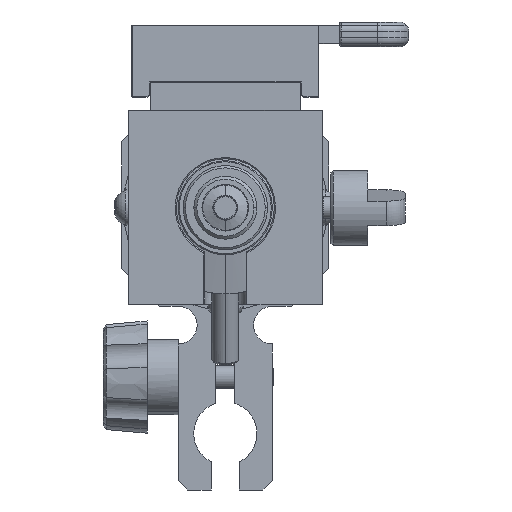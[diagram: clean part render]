
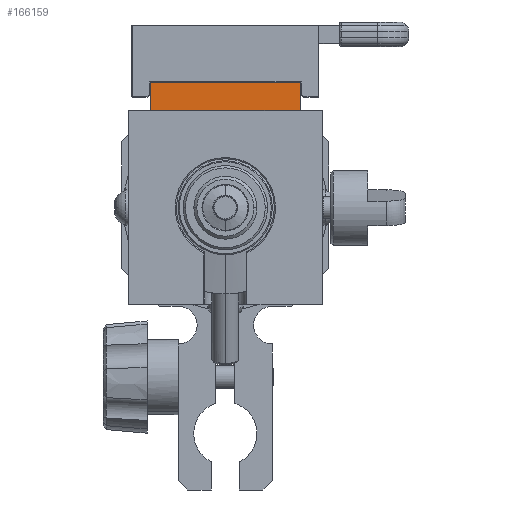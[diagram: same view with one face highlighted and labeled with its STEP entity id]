
A CAD part, front view. The second image highlights one B-rep face of the part: STEP entity #166159.
In plain terms, the highlighted planar face has unit normal (0, -1, 0).
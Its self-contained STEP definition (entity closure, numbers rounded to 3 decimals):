
#164773 = PLANE('',#164774);
#164774 = AXIS2_PLACEMENT_3D('',#164775,#164776,#164777);
#164775 = CARTESIAN_POINT('',(12.631,-54.095,16.376)
  );
#164776 = DIRECTION('',(0.,-0.707,
    -0.707));
#164777 = DIRECTION('',(0.,-0.707,
    0.707));
#165278 = VERTEX_POINT('',#165279);
#165279 = CARTESIAN_POINT('',(12.52,-54.178,21.057));
#165286 = PLANE('',#165287);
#165287 = AXIS2_PLACEMENT_3D('',#165288,#165289,#165290);
#165288 = CARTESIAN_POINT('',(12.705,-54.188,20.872)
  );
#165289 = DIRECTION('',(0.707,0.,
    0.707));
#165290 = DIRECTION('',(0.,1.,0.));
#165298 = PLANE('',#165299);
#165299 = AXIS2_PLACEMENT_3D('',#165300,#165301,#165302);
#165300 = CARTESIAN_POINT('',(12.53,-54.185,21.05)
  );
#165301 = DIRECTION('',(0.,-0.707,
    0.707));
#165302 = DIRECTION('',(0.,0.707,
    0.707));
#165310 = EDGE_CURVE('',#165278,#165311,#165313,.T.);
#165311 = VERTEX_POINT('',#165312);
#165312 = CARTESIAN_POINT('',(12.621,-54.178,20.955));
#165313 = SURFACE_CURVE('',#165314,(#165318,#165325),.PCURVE_S1.);
#165314 = LINE('',#165315,#165316);
#165315 = CARTESIAN_POINT('',(12.57,-54.178,21.006));
#165316 = VECTOR('',#165317,1.);
#165317 = DIRECTION('',(0.707,0.,
    -0.707));
#165318 = PCURVE('',#165286,#165319);
#165319 = DEFINITIONAL_REPRESENTATION('',(#165320),#165324);
#165320 = LINE('',#165321,#165322);
#165321 = CARTESIAN_POINT('',(0.01,0.19));
#165322 = VECTOR('',#165323,1.);
#165323 = DIRECTION('',(0.,-1.));
#165324 = ( GEOMETRIC_REPRESENTATION_CONTEXT(2) 
PARAMETRIC_REPRESENTATION_CONTEXT() REPRESENTATION_CONTEXT('2D SPACE',''
  ) );
#165325 = PCURVE('',#165326,#165331);
#165326 = PLANE('',#165327);
#165327 = AXIS2_PLACEMENT_3D('',#165328,#165329,#165330);
#165328 = CARTESIAN_POINT('',(12.631,-54.178,16.449));
#165329 = DIRECTION('',(0.,-1.,0.));
#165330 = DIRECTION('',(0.,0.,1.));
#165331 = DEFINITIONAL_REPRESENTATION('',(#165332),#165336);
#165332 = LINE('',#165333,#165334);
#165333 = CARTESIAN_POINT('',(4.557,0.061));
#165334 = VECTOR('',#165335,1.);
#165335 = DIRECTION('',(-0.707,-0.707));
#165336 = ( GEOMETRIC_REPRESENTATION_CONTEXT(2) 
PARAMETRIC_REPRESENTATION_CONTEXT() REPRESENTATION_CONTEXT('2D SPACE',''
  ) );
#165354 = PLANE('',#165355);
#165355 = AXIS2_PLACEMENT_3D('',#165356,#165357,#165358);
#165356 = CARTESIAN_POINT('',(12.705,-54.095,16.449));
#165357 = DIRECTION('',(0.707,-0.707,
    0.));
#165358 = DIRECTION('',(0.,0.,1.));
#165490 = PLANE('',#165491);
#165491 = AXIS2_PLACEMENT_3D('',#165492,#165493,#165494);
#165492 = CARTESIAN_POINT('',(-12.436,-54.188,21.14)
  );
#165493 = DIRECTION('',(-0.707,0.,
    0.707));
#165494 = DIRECTION('',(0.,1.,0.));
#165538 = VERTEX_POINT('',#165539);
#165539 = CARTESIAN_POINT('',(-12.621,-54.178,20.955));
#165553 = PLANE('',#165554);
#165554 = AXIS2_PLACEMENT_3D('',#165555,#165556,#165557);
#165555 = CARTESIAN_POINT('',(-12.614,-54.185,16.449));
#165556 = DIRECTION('',(-0.707,-0.707,
    0.));
#165557 = DIRECTION('',(0.,0.,1.));
#165565 = EDGE_CURVE('',#165538,#165566,#165568,.T.);
#165566 = VERTEX_POINT('',#165567);
#165567 = CARTESIAN_POINT('',(-12.52,-54.178,21.057));
#165568 = SURFACE_CURVE('',#165569,(#165573,#165580),.PCURVE_S1.);
#165569 = LINE('',#165570,#165571);
#165570 = CARTESIAN_POINT('',(-12.57,-54.178,21.006));
#165571 = VECTOR('',#165572,1.);
#165572 = DIRECTION('',(0.707,0.,
    0.707));
#165573 = PCURVE('',#165490,#165574);
#165574 = DEFINITIONAL_REPRESENTATION('',(#165575),#165579);
#165575 = LINE('',#165576,#165577);
#165576 = CARTESIAN_POINT('',(0.01,0.19));
#165577 = VECTOR('',#165578,1.);
#165578 = DIRECTION('',(0.,-1.));
#165579 = ( GEOMETRIC_REPRESENTATION_CONTEXT(2) 
PARAMETRIC_REPRESENTATION_CONTEXT() REPRESENTATION_CONTEXT('2D SPACE',''
  ) );
#165580 = PCURVE('',#165326,#165581);
#165581 = DEFINITIONAL_REPRESENTATION('',(#165582),#165586);
#165582 = LINE('',#165583,#165584);
#165583 = CARTESIAN_POINT('',(4.557,25.202));
#165584 = VECTOR('',#165585,1.);
#165585 = DIRECTION('',(0.707,-0.707));
#165586 = ( GEOMETRIC_REPRESENTATION_CONTEXT(2) 
PARAMETRIC_REPRESENTATION_CONTEXT() REPRESENTATION_CONTEXT('2D SPACE',''
  ) );
#165877 = VERTEX_POINT('',#165878);
#165878 = CARTESIAN_POINT('',(-12.621,-54.178,16.459));
#165904 = EDGE_CURVE('',#165538,#165877,#165905,.T.);
#165905 = SURFACE_CURVE('',#165906,(#165910,#165917),.PCURVE_S1.);
#165906 = LINE('',#165907,#165908);
#165907 = CARTESIAN_POINT('',(-12.621,-54.178,18.758));
#165908 = VECTOR('',#165909,1.);
#165909 = DIRECTION('',(0.,0.,-1.));
#165910 = PCURVE('',#165553,#165911);
#165911 = DEFINITIONAL_REPRESENTATION('',(#165912),#165916);
#165912 = LINE('',#165913,#165914);
#165913 = CARTESIAN_POINT('',(2.309,0.01));
#165914 = VECTOR('',#165915,1.);
#165915 = DIRECTION('',(-1.,0.));
#165916 = ( GEOMETRIC_REPRESENTATION_CONTEXT(2) 
PARAMETRIC_REPRESENTATION_CONTEXT() REPRESENTATION_CONTEXT('2D SPACE',''
  ) );
#165917 = PCURVE('',#165326,#165918);
#165918 = DEFINITIONAL_REPRESENTATION('',(#165919),#165923);
#165919 = LINE('',#165920,#165921);
#165920 = CARTESIAN_POINT('',(2.309,25.253));
#165921 = VECTOR('',#165922,1.);
#165922 = DIRECTION('',(-1.,0.));
#165923 = ( GEOMETRIC_REPRESENTATION_CONTEXT(2) 
PARAMETRIC_REPRESENTATION_CONTEXT() REPRESENTATION_CONTEXT('2D SPACE',''
  ) );
#165931 = VERTEX_POINT('',#165932);
#165932 = CARTESIAN_POINT('',(12.621,-54.178,16.459));
#165960 = EDGE_CURVE('',#165931,#165311,#165961,.T.);
#165961 = SURFACE_CURVE('',#165962,(#165966,#165973),.PCURVE_S1.);
#165962 = LINE('',#165963,#165964);
#165963 = CARTESIAN_POINT('',(12.621,-54.178,18.758));
#165964 = VECTOR('',#165965,1.);
#165965 = DIRECTION('',(0.,0.,1.));
#165966 = PCURVE('',#165354,#165967);
#165967 = DEFINITIONAL_REPRESENTATION('',(#165968),#165972);
#165968 = LINE('',#165969,#165970);
#165969 = CARTESIAN_POINT('',(2.309,0.118));
#165970 = VECTOR('',#165971,1.);
#165971 = DIRECTION('',(1.,0.));
#165972 = ( GEOMETRIC_REPRESENTATION_CONTEXT(2) 
PARAMETRIC_REPRESENTATION_CONTEXT() REPRESENTATION_CONTEXT('2D SPACE',''
  ) );
#165973 = PCURVE('',#165326,#165974);
#165974 = DEFINITIONAL_REPRESENTATION('',(#165975),#165979);
#165975 = LINE('',#165976,#165977);
#165976 = CARTESIAN_POINT('',(2.309,0.01));
#165977 = VECTOR('',#165978,1.);
#165978 = DIRECTION('',(1.,0.));
#165979 = ( GEOMETRIC_REPRESENTATION_CONTEXT(2) 
PARAMETRIC_REPRESENTATION_CONTEXT() REPRESENTATION_CONTEXT('2D SPACE',''
  ) );
#166012 = EDGE_CURVE('',#165278,#165566,#166013,.T.);
#166013 = SURFACE_CURVE('',#166014,(#166018,#166025),.PCURVE_S1.);
#166014 = LINE('',#166015,#166016);
#166015 = CARTESIAN_POINT('',(0.,-54.178,21.057));
#166016 = VECTOR('',#166017,1.);
#166017 = DIRECTION('',(-1.,0.,0.));
#166018 = PCURVE('',#165298,#166019);
#166019 = DEFINITIONAL_REPRESENTATION('',(#166020),#166024);
#166020 = LINE('',#166021,#166022);
#166021 = CARTESIAN_POINT('',(0.01,12.53));
#166022 = VECTOR('',#166023,1.);
#166023 = DIRECTION('',(0.,1.));
#166024 = ( GEOMETRIC_REPRESENTATION_CONTEXT(2) 
PARAMETRIC_REPRESENTATION_CONTEXT() REPRESENTATION_CONTEXT('2D SPACE',''
  ) );
#166025 = PCURVE('',#165326,#166026);
#166026 = DEFINITIONAL_REPRESENTATION('',(#166027),#166031);
#166027 = LINE('',#166028,#166029);
#166028 = CARTESIAN_POINT('',(4.607,12.631));
#166029 = VECTOR('',#166030,1.);
#166030 = DIRECTION('',(0.,1.));
#166031 = ( GEOMETRIC_REPRESENTATION_CONTEXT(2) 
PARAMETRIC_REPRESENTATION_CONTEXT() REPRESENTATION_CONTEXT('2D SPACE',''
  ) );
#166159 = ADVANCED_FACE('',(#166160),#165326,.T.);
#166160 = FACE_BOUND('',#166161,.T.);
#166161 = EDGE_LOOP('',(#166162,#166163,#166164,#166165,#166186,#166187)
  );
#166162 = ORIENTED_EDGE('',*,*,#166012,.T.);
#166163 = ORIENTED_EDGE('',*,*,#165565,.F.);
#166164 = ORIENTED_EDGE('',*,*,#165904,.T.);
#166165 = ORIENTED_EDGE('',*,*,#166166,.F.);
#166166 = EDGE_CURVE('',#165931,#165877,#166167,.T.);
#166167 = SURFACE_CURVE('',#166168,(#166172,#166179),.PCURVE_S1.);
#166168 = LINE('',#166169,#166170);
#166169 = CARTESIAN_POINT('',(0.,-54.178,16.459));
#166170 = VECTOR('',#166171,1.);
#166171 = DIRECTION('',(-1.,0.,0.));
#166172 = PCURVE('',#165326,#166173);
#166173 = DEFINITIONAL_REPRESENTATION('',(#166174),#166178);
#166174 = LINE('',#166175,#166176);
#166175 = CARTESIAN_POINT('',(0.01,12.631));
#166176 = VECTOR('',#166177,1.);
#166177 = DIRECTION('',(0.,1.));
#166178 = ( GEOMETRIC_REPRESENTATION_CONTEXT(2) 
PARAMETRIC_REPRESENTATION_CONTEXT() REPRESENTATION_CONTEXT('2D SPACE',''
  ) );
#166179 = PCURVE('',#164773,#166180);
#166180 = DEFINITIONAL_REPRESENTATION('',(#166181),#166185);
#166181 = LINE('',#166182,#166183);
#166182 = CARTESIAN_POINT('',(0.118,12.631));
#166183 = VECTOR('',#166184,1.);
#166184 = DIRECTION('',(0.,1.));
#166185 = ( GEOMETRIC_REPRESENTATION_CONTEXT(2) 
PARAMETRIC_REPRESENTATION_CONTEXT() REPRESENTATION_CONTEXT('2D SPACE',''
  ) );
#166186 = ORIENTED_EDGE('',*,*,#165960,.T.);
#166187 = ORIENTED_EDGE('',*,*,#165310,.F.);
